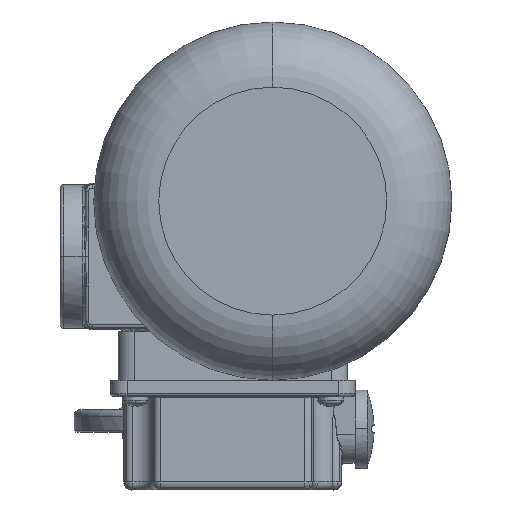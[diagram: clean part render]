
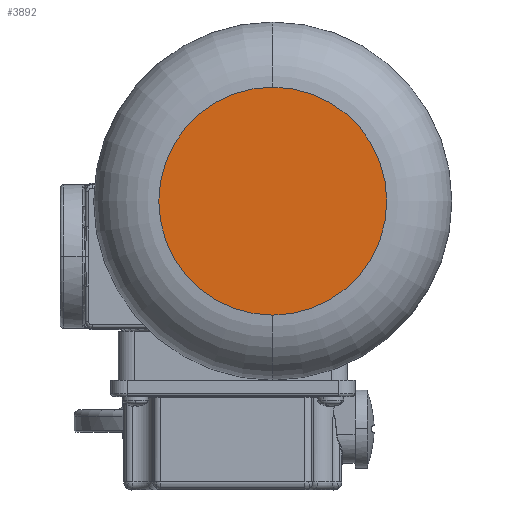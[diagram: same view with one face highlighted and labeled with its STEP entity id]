
A CAD part, left-side view. The second image highlights one B-rep face of the part: STEP entity #3892.
In plain terms, the highlighted planar face has unit normal (-1, 0, 0).
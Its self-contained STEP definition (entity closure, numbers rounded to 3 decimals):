
#3481 = PLANE ( 'NONE',  #16934 ) ;
#3821 = ORIENTED_EDGE ( 'NONE', *, *, #22472, .T. ) ;
#3892 = ADVANCED_FACE ( 'NONE', ( #8031 ), #3481, .F. ) ;
#4302 = ORIENTED_EDGE ( 'NONE', *, *, #10409, .T. ) ;
#4617 = AXIS2_PLACEMENT_3D ( 'NONE', #16781, #25473, #5923 ) ;
#5923 = DIRECTION ( 'NONE',  ( 0., 0., -1. ) ) ;
#8031 = FACE_OUTER_BOUND ( 'NONE', #9077, .T. ) ;
#9077 = EDGE_LOOP ( 'NONE', ( #3821, #4302 ) ) ;
#10409 = EDGE_CURVE ( 'NONE', #25497, #16900, #20181, .T. ) ;
#12447 = DIRECTION ( 'NONE',  ( 0., 0., -1. ) ) ;
#13322 = DIRECTION ( 'NONE',  ( 0., 0., -1. ) ) ;
#14600 = CARTESIAN_POINT ( 'NONE',  ( 0., 0., 0. ) ) ;
#15477 = CARTESIAN_POINT ( 'NONE',  ( 0., 0., 0. ) ) ;
#16781 = CARTESIAN_POINT ( 'NONE',  ( 0., 0., 0. ) ) ;
#16900 = VERTEX_POINT ( 'NONE', #24782 ) ;
#16934 = AXIS2_PLACEMENT_3D ( 'NONE', #14600, #23305, #12447 ) ;
#20181 = CIRCLE ( 'NONE', #22001, 35. ) ;
#22001 = AXIS2_PLACEMENT_3D ( 'NONE', #15477, #24174, #13322 ) ;
#22472 = EDGE_CURVE ( 'NONE', #16900, #25497, #24669, .T. ) ;
#23305 = DIRECTION ( 'NONE',  ( 1., 0., 0. ) ) ;
#24174 = DIRECTION ( 'NONE',  ( -1., 0., 0. ) ) ;
#24544 = CARTESIAN_POINT ( 'NONE',  ( 0., 0., 35. ) ) ;
#24669 = CIRCLE ( 'NONE', #4617, 35. ) ;
#24782 = CARTESIAN_POINT ( 'NONE',  ( 0., 0., -35. ) ) ;
#25473 = DIRECTION ( 'NONE',  ( -1., 0., 0. ) ) ;
#25497 = VERTEX_POINT ( 'NONE', #24544 ) ;
